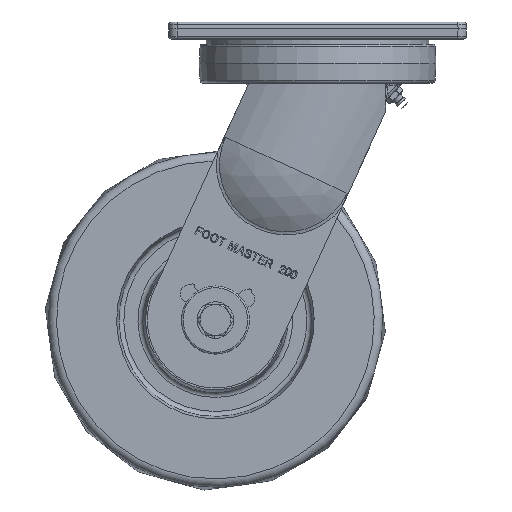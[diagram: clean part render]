
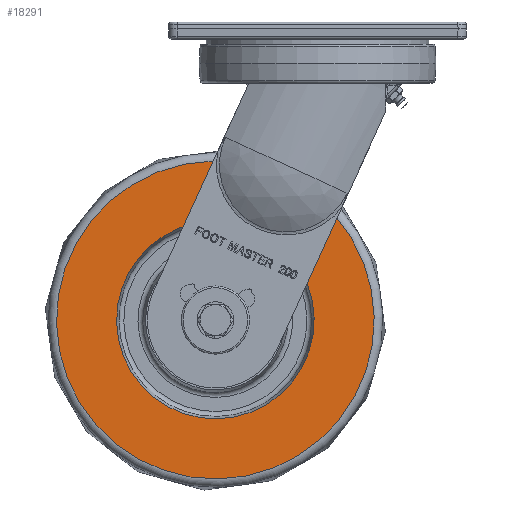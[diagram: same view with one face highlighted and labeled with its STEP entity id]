
A CAD part, left-side view. The second image highlights one B-rep face of the part: STEP entity #18291.
In plain terms, the highlighted planar face has unit normal (-1, 0, 0).
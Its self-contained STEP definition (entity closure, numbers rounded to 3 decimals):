
#966=FACE_BOUND('',#3872,.T.);
#1593=CIRCLE('',#19223,93.278);
#1594=CIRCLE('',#19224,93.278);
#1595=CIRCLE('',#19225,58.);
#1596=CIRCLE('',#19226,58.);
#2776=FACE_OUTER_BOUND('',#3871,.T.);
#3871=EDGE_LOOP('',(#16547,#16548));
#3872=EDGE_LOOP('',(#16549,#16550));
#8675=VERTEX_POINT('',#32642);
#8676=VERTEX_POINT('',#32643);
#8677=VERTEX_POINT('',#32646);
#8678=VERTEX_POINT('',#32647);
#11328=EDGE_CURVE('',#8675,#8676,#1593,.T.);
#11329=EDGE_CURVE('',#8676,#8675,#1594,.T.);
#11330=EDGE_CURVE('',#8677,#8678,#1595,.T.);
#11331=EDGE_CURVE('',#8678,#8677,#1596,.T.);
#16547=ORIENTED_EDGE('',*,*,#11328,.F.);
#16548=ORIENTED_EDGE('',*,*,#11329,.F.);
#16549=ORIENTED_EDGE('',*,*,#11330,.T.);
#16550=ORIENTED_EDGE('',*,*,#11331,.T.);
#17318=PLANE('',#19222);
#18291=ADVANCED_FACE('',(#2776,#966),#17318,.T.);
#19222=AXIS2_PLACEMENT_3D('',#32641,#22566,#22567);
#19223=AXIS2_PLACEMENT_3D('',#32644,#22568,#22569);
#19224=AXIS2_PLACEMENT_3D('',#32645,#22570,#22571);
#19225=AXIS2_PLACEMENT_3D('',#32648,#22572,#22573);
#19226=AXIS2_PLACEMENT_3D('',#32649,#22574,#22575);
#22566=DIRECTION('center_axis',(-1.,0.,0.));
#22567=DIRECTION('ref_axis',(0.,-0.659,-0.753));
#22568=DIRECTION('center_axis',(1.,0.,0.));
#22569=DIRECTION('ref_axis',(0.,0.753,-0.659));
#22570=DIRECTION('center_axis',(1.,0.,0.));
#22571=DIRECTION('ref_axis',(0.,0.753,-0.659));
#22572=DIRECTION('center_axis',(1.,0.,0.));
#22573=DIRECTION('ref_axis',(0.,-0.753,0.659));
#22574=DIRECTION('center_axis',(1.,0.,0.));
#22575=DIRECTION('ref_axis',(0.,-0.753,0.659));
#32641=CARTESIAN_POINT('Origin',(-34.,11.757,-128.785));
#32642=CARTESIAN_POINT('',(-34.,130.197,-232.425));
#32643=CARTESIAN_POINT('',(-34.,121.425,-100.803));
#32644=CARTESIAN_POINT('Origin',(-34.,60.,-171.));
#32645=CARTESIAN_POINT('Origin',(-34.,60.,-171.));
#32646=CARTESIAN_POINT('',(-34.,16.351,-132.806));
#32647=CARTESIAN_POINT('',(-34.,103.649,-209.194));
#32648=CARTESIAN_POINT('Origin',(-34.,60.,-171.));
#32649=CARTESIAN_POINT('Origin',(-34.,60.,-171.));
